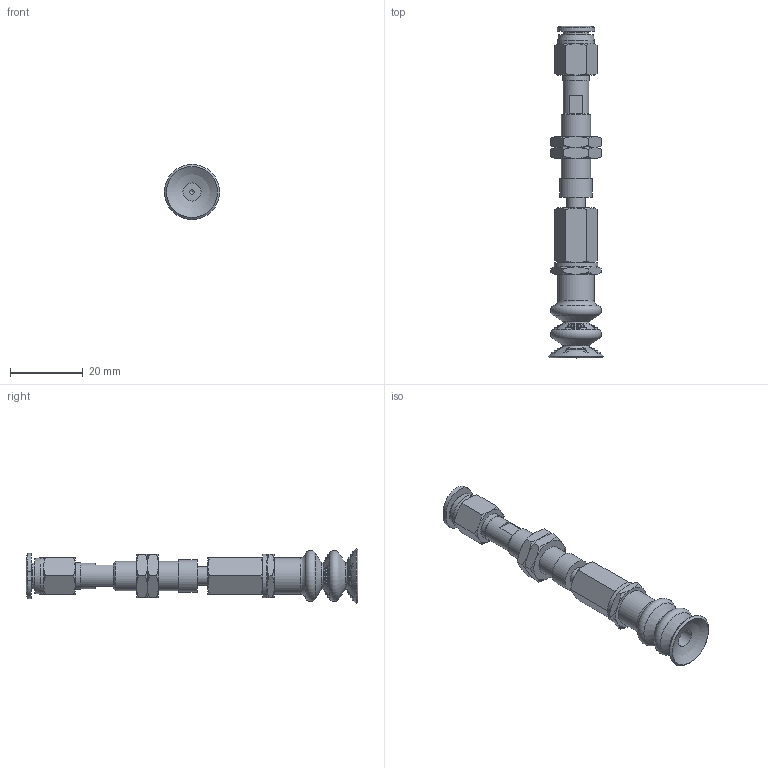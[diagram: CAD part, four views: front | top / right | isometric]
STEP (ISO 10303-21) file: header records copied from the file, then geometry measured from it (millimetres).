
FILE_DESCRIPTION(('STEP AP203'),'1');
FILE_NAME('-O.stp','2025-08-27T02:13:03',(' '),(' '),'Spatial InterOp 3D',' ',' ');
FILE_SCHEMA(('CONFIG_CONTROL_DESIGN'));
Length unit declared in the file: millimetre
Products named in the file (8): BNABPCTS-15-3-※-O; ADAPTER; NAPCTS-10-3-MBODY; Adapter_napc-15-T; Nut napc_s-15-3; NAPCTS-15-3-FBODY; BPCG-15-※; PC-C_06-M5
Assembly tree (8 placements, depth 2):
  BNABPCTS-15-3-※-O
    ADAPTER
    NAPCTS-10-3-MBODY
    Adapter_napc-15-T
    Nut napc_s-15-3  x2
    NAPCTS-15-3-FBODY
    BPCG-15-※
    PC-C_06-M5
Bounding box: 15.2 x 91.18 x 15.2 mm (x, y, z)
Volume: 5443.9 mm3; surface area: 6631.6 mm2
Topology: 7 solids, 10 shells, 271 faces, 760 edges, 485 vertices
Faces by surface type: cone 79, plane 65, sphere 58, torus 36, cylinder 26, bspline 4, revolution 3
Full cylindrical faces by diameter (mm): 1.25 x1, 4 x2, 4.134 x2, 5 x8, 7 x2, 7.188 x2, 7.4 x1, 8 x1, 8.2 x1, 9 x1, 10 x2, 12 x1
Entity records: 7819 total; most frequent: CARTESIAN_POINT 2404, DIRECTION 1087, ORIENTED_EDGE 926, AXIS2_PLACEMENT_3D 520, EDGE_CURVE 465, EDGE_LOOP 350, VERTEX_POINT 326, CIRCLE 271
